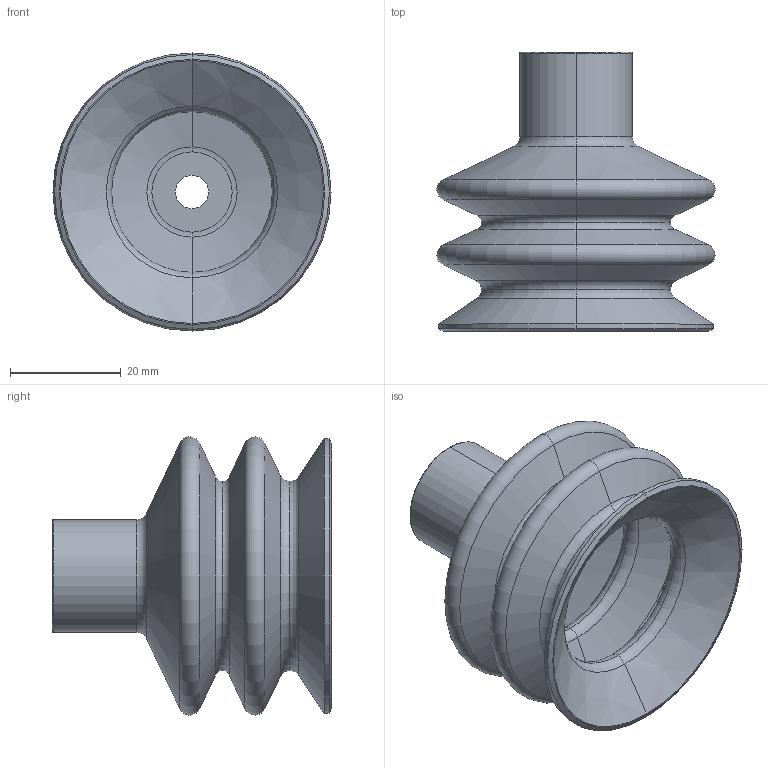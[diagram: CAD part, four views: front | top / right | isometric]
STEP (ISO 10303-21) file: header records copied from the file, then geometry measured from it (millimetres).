
FILE_DESCRIPTION (( 'STEP AP203' ), '1' );
FILE_NAME ('82_50--F14.STEP', '2017-10-11T12:55:46', ( '' ), ( '' ), 'SwSTEP 2.0', 'SolidWorks 2016', '' );
FILE_SCHEMA (( 'CONFIG_CONTROL_DESIGN' ));
Length unit declared in the file: millimetre
Products named in the file (1): 82_50--F14
Bounding box: 50.17 x 50.38 x 50.17 mm (x, y, z)
Volume: 19082.8 mm3; surface area: 18919.4 mm2
Topology: 2 solids, 2 shells, 216 faces, 507 edges, 316 vertices
Faces by surface type: sphere 96, cylinder 57, torus 34, cone 22, plane 5, bspline 2
Entity records: 9669 total; most frequent: CARTESIAN_POINT 4828, ORIENTED_EDGE 1014, DIRECTION 998, EDGE_CURVE 507, AXIS2_PLACEMENT_3D 470, VERTEX_POINT 316, CIRCLE 255, EDGE_LOOP 241
